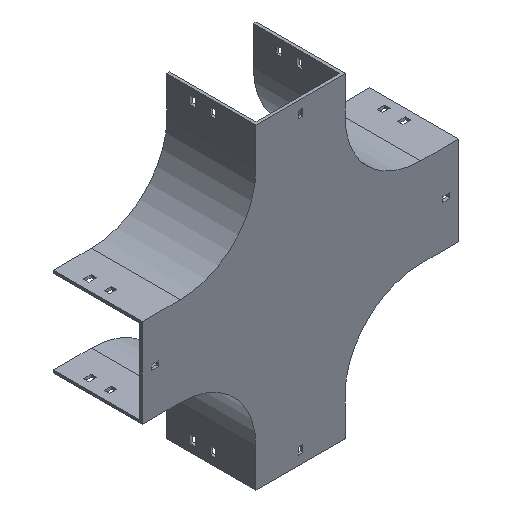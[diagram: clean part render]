
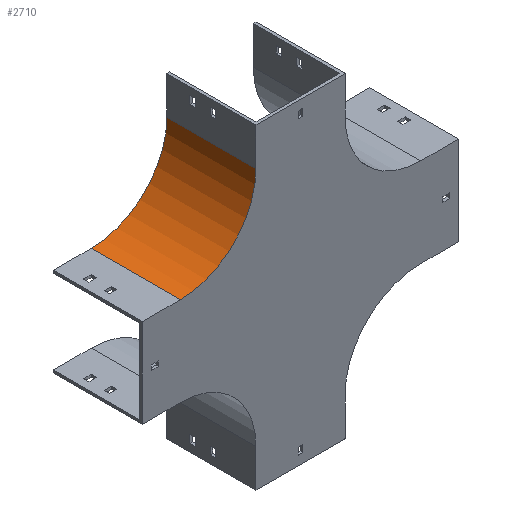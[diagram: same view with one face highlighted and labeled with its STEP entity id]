
A CAD part, isometric view. The second image highlights one B-rep face of the part: STEP entity #2710.
In plain terms, the highlighted cylindrical face has radius 100 mm (diameter 200 mm), a partial arc.
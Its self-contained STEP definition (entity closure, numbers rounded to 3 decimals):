
#25 = CIRCLE ( 'NONE', #3238, 100. ) ;
#326 = CARTESIAN_POINT ( 'NONE',  ( -317.5, 0., -100. ) ) ;
#343 = CIRCLE ( 'NONE', #852, 100. ) ;
#405 = VECTOR ( 'NONE', #2873, 1000. ) ;
#491 = ORIENTED_EDGE ( 'NONE', *, *, #3236, .F. ) ;
#516 = LINE ( 'NONE', #1705, #405 ) ;
#607 = CARTESIAN_POINT ( 'NONE',  ( -217.5, 117.5, 0. ) ) ;
#632 = DIRECTION ( 'NONE',  ( 0., -1., 0. ) ) ;
#676 = CARTESIAN_POINT ( 'NONE',  ( -317.5, 117.5, 0. ) ) ;
#692 = DIRECTION ( 'NONE',  ( 0., 0., 1. ) ) ;
#731 = FACE_OUTER_BOUND ( 'NONE', #1398, .T. ) ;
#749 = CYLINDRICAL_SURFACE ( 'NONE', #2563, 100. ) ;
#798 = ORIENTED_EDGE ( 'NONE', *, *, #2803, .T. ) ;
#808 = CARTESIAN_POINT ( 'NONE',  ( -317.5, 0., 0. ) ) ;
#852 = AXIS2_PLACEMENT_3D ( 'NONE', #808, #1128, #2910 ) ;
#1128 = DIRECTION ( 'NONE',  ( 0., -1., 0. ) ) ;
#1398 = EDGE_LOOP ( 'NONE', ( #798, #491, #3469, #3416 ) ) ;
#1483 = VERTEX_POINT ( 'NONE', #326 ) ;
#1695 = CARTESIAN_POINT ( 'NONE',  ( -217.5, 0., 0. ) ) ;
#1705 = CARTESIAN_POINT ( 'NONE',  ( -317.5, 117.5, -100. ) ) ;
#1937 = DIRECTION ( 'NONE',  ( 0., -1., 0. ) ) ;
#2477 = CARTESIAN_POINT ( 'NONE',  ( -217.5, 117.5, 0. ) ) ;
#2563 = AXIS2_PLACEMENT_3D ( 'NONE', #3697, #1937, #2819 ) ;
#2609 = EDGE_CURVE ( 'NONE', #2798, #3824, #25, .T. ) ;
#2710 = ADVANCED_FACE ( 'NONE', ( #731 ), #749, .F. ) ;
#2798 = VERTEX_POINT ( 'NONE', #2892 ) ;
#2803 = EDGE_CURVE ( 'NONE', #1483, #3457, #343, .T. ) ;
#2819 = DIRECTION ( 'NONE',  ( 0., 0., -1. ) ) ;
#2844 = EDGE_CURVE ( 'NONE', #2798, #1483, #516, .T. ) ;
#2873 = DIRECTION ( 'NONE',  ( 0., -1., 0. ) ) ;
#2892 = CARTESIAN_POINT ( 'NONE',  ( -317.5, 117.5, -100. ) ) ;
#2910 = DIRECTION ( 'NONE',  ( 0., 0., 1. ) ) ;
#3001 = VECTOR ( 'NONE', #3085, 1000. ) ;
#3085 = DIRECTION ( 'NONE',  ( 0., -1., 0. ) ) ;
#3236 = EDGE_CURVE ( 'NONE', #3824, #3457, #3629, .T. ) ;
#3238 = AXIS2_PLACEMENT_3D ( 'NONE', #676, #632, #692 ) ;
#3416 = ORIENTED_EDGE ( 'NONE', *, *, #2844, .T. ) ;
#3457 = VERTEX_POINT ( 'NONE', #1695 ) ;
#3469 = ORIENTED_EDGE ( 'NONE', *, *, #2609, .F. ) ;
#3629 = LINE ( 'NONE', #2477, #3001 ) ;
#3697 = CARTESIAN_POINT ( 'NONE',  ( -317.5, 117.5, 0. ) ) ;
#3824 = VERTEX_POINT ( 'NONE', #607 ) ;
